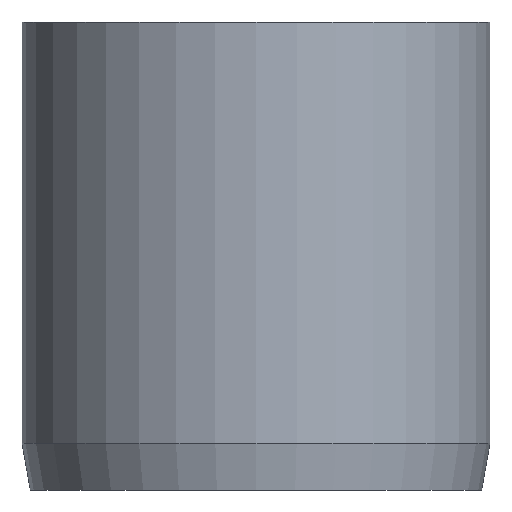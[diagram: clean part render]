
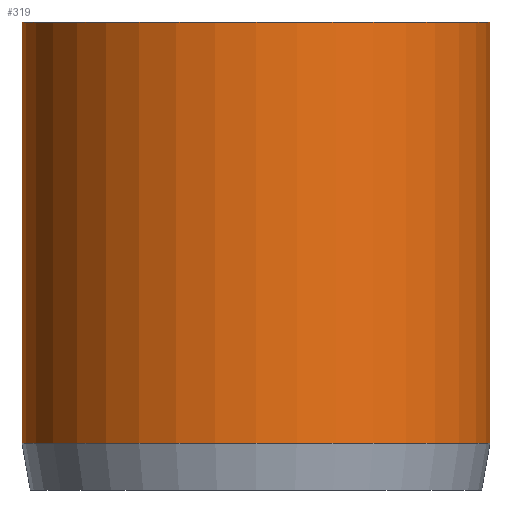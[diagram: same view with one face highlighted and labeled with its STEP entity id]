
A CAD part, front view. The second image highlights one B-rep face of the part: STEP entity #319.
In plain terms, the highlighted cylindrical face has radius 10 mm (diameter 20 mm), a partial arc.
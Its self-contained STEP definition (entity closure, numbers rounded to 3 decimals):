
#3 = VERTEX_POINT ( 'NONE', #111 ) ;
#11 = DIRECTION ( 'NONE',  ( 1., 0., 0. ) ) ;
#15 = DIRECTION ( 'NONE',  ( 0., 0., 1. ) ) ;
#17 = CARTESIAN_POINT ( 'NONE',  ( 0., 0., -18. ) ) ;
#31 = EDGE_CURVE ( 'NONE', #240, #114, #367, .T. ) ;
#72 = EDGE_CURVE ( 'NONE', #118, #114, #379, .T. ) ;
#91 = ORIENTED_EDGE ( 'NONE', *, *, #93, .F. ) ;
#92 = DIRECTION ( 'NONE',  ( 0., 0., 1. ) ) ;
#93 = EDGE_CURVE ( 'NONE', #3, #240, #225, .T. ) ;
#96 = DIRECTION ( 'NONE',  ( 1., 0., 0. ) ) ;
#108 = CARTESIAN_POINT ( 'NONE',  ( 0., 0., 0. ) ) ;
#111 = CARTESIAN_POINT ( 'NONE',  ( -10., 0., -18. ) ) ;
#114 = VERTEX_POINT ( 'NONE', #177 ) ;
#118 = VERTEX_POINT ( 'NONE', #156 ) ;
#140 = EDGE_CURVE ( 'NONE', #3, #118, #199, .T. ) ;
#150 = DIRECTION ( 'NONE',  ( 1., 0., 0. ) ) ;
#155 = ORIENTED_EDGE ( 'NONE', *, *, #31, .F. ) ;
#156 = CARTESIAN_POINT ( 'NONE',  ( 10., 0., -18. ) ) ;
#167 = CARTESIAN_POINT ( 'NONE',  ( 10., 0., 0. ) ) ;
#177 = CARTESIAN_POINT ( 'NONE',  ( 10., 0., 0. ) ) ;
#187 = DIRECTION ( 'NONE',  ( 0., 0., 1. ) ) ;
#197 = CARTESIAN_POINT ( 'NONE',  ( 0., 0., 0. ) ) ;
#199 = CIRCLE ( 'NONE', #349, 10. ) ;
#201 = ORIENTED_EDGE ( 'NONE', *, *, #72, .T. ) ;
#213 = CARTESIAN_POINT ( 'NONE',  ( -10., 0., 0. ) ) ;
#225 = LINE ( 'NONE', #213, #235 ) ;
#235 = VECTOR ( 'NONE', #274, 1000. ) ;
#240 = VERTEX_POINT ( 'NONE', #324 ) ;
#242 = DIRECTION ( 'NONE',  ( 0., 0., 1. ) ) ;
#264 = AXIS2_PLACEMENT_3D ( 'NONE', #108, #242, #96 ) ;
#274 = DIRECTION ( 'NONE',  ( 0., 0., 1. ) ) ;
#283 = VECTOR ( 'NONE', #92, 1000. ) ;
#312 = CYLINDRICAL_SURFACE ( 'NONE', #264, 10. ) ;
#319 = ADVANCED_FACE ( 'NONE', ( #370 ), #312, .T. ) ;
#320 = ORIENTED_EDGE ( 'NONE', *, *, #140, .T. ) ;
#324 = CARTESIAN_POINT ( 'NONE',  ( -10., 0., 0. ) ) ;
#349 = AXIS2_PLACEMENT_3D ( 'NONE', #17, #15, #11 ) ;
#367 = CIRCLE ( 'NONE', #388, 10. ) ;
#370 = FACE_OUTER_BOUND ( 'NONE', #375, .T. ) ;
#375 = EDGE_LOOP ( 'NONE', ( #91, #320, #201, #155 ) ) ;
#379 = LINE ( 'NONE', #167, #283 ) ;
#388 = AXIS2_PLACEMENT_3D ( 'NONE', #197, #187, #150 ) ;
